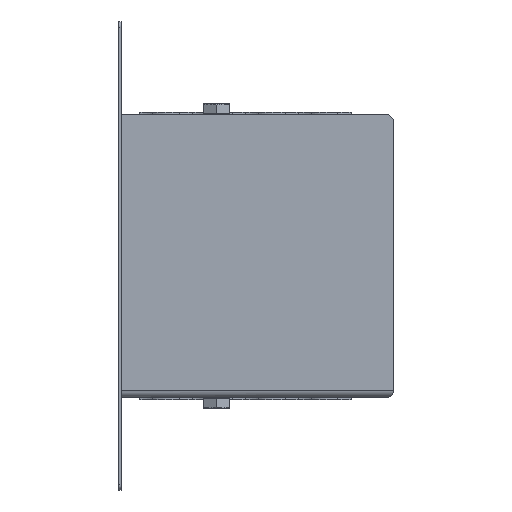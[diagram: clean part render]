
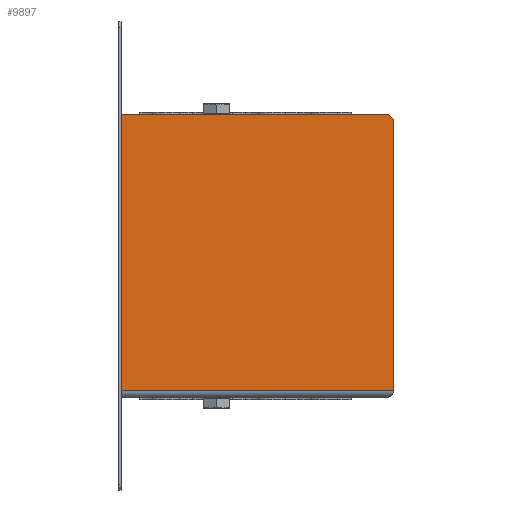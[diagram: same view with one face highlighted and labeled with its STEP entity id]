
A CAD part, left-side view. The second image highlights one B-rep face of the part: STEP entity #9897.
In plain terms, the highlighted planar face has unit normal (-1, 0, 0).
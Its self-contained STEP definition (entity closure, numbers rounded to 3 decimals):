
#187 = CARTESIAN_POINT ( 'NONE',  ( -219.6, 0.8, 50.7 ) ) ;
#545 = VECTOR ( 'NONE', #9205, 1000. ) ;
#758 = CIRCLE ( 'NONE', #8159, 2.8 ) ;
#793 = CARTESIAN_POINT ( 'NONE',  ( -219.6, 0.8, 53.5 ) ) ;
#1156 = ORIENTED_EDGE ( 'NONE', *, *, #5533, .F. ) ;
#1188 = DIRECTION ( 'NONE',  ( 0., 0., -1. ) ) ;
#1517 = DIRECTION ( 'NONE',  ( 0., -1., 0. ) ) ;
#1686 = VECTOR ( 'NONE', #6792, 1000. ) ;
#1745 = ORIENTED_EDGE ( 'NONE', *, *, #12156, .F. ) ;
#2503 = PLANE ( 'NONE',  #4854 ) ;
#2712 = CARTESIAN_POINT ( 'NONE',  ( -219.6, 101., -50.7 ) ) ;
#2959 = CARTESIAN_POINT ( 'NONE',  ( -219.6, 101., -53.5 ) ) ;
#3431 = EDGE_CURVE ( 'NONE', #11229, #12215, #3500, .T. ) ;
#3500 = LINE ( 'NONE', #5264, #545 ) ;
#3717 = VERTEX_POINT ( 'NONE', #793 ) ;
#3961 = DIRECTION ( 'NONE',  ( 0., 0., -1. ) ) ;
#4538 = DIRECTION ( 'NONE',  ( 1., 0., 0. ) ) ;
#4656 = VERTEX_POINT ( 'NONE', #2712 ) ;
#4786 = LINE ( 'NONE', #8376, #9078 ) ;
#4854 = AXIS2_PLACEMENT_3D ( 'NONE', #5446, #4538, #11385 ) ;
#5264 = CARTESIAN_POINT ( 'NONE',  ( -219.6, -2., 53.5 ) ) ;
#5446 = CARTESIAN_POINT ( 'NONE',  ( -219.6, 0., 0. ) ) ;
#5533 = EDGE_CURVE ( 'NONE', #8864, #3717, #4786, .T. ) ;
#6589 = VECTOR ( 'NONE', #3961, 1000. ) ;
#6792 = DIRECTION ( 'NONE',  ( 0., 1., 0. ) ) ;
#6896 = LINE ( 'NONE', #10745, #1686 ) ;
#6905 = LINE ( 'NONE', #2959, #6589 ) ;
#7043 = CARTESIAN_POINT ( 'NONE',  ( -219.6, -2., -50.7 ) ) ;
#7060 = DIRECTION ( 'NONE',  ( 1., 0., 0. ) ) ;
#8159 = AXIS2_PLACEMENT_3D ( 'NONE', #187, #7060, #1188 ) ;
#8187 = CARTESIAN_POINT ( 'NONE',  ( -219.6, -2., 50.7 ) ) ;
#8376 = CARTESIAN_POINT ( 'NONE',  ( -219.6, 0., 53.5 ) ) ;
#8864 = VERTEX_POINT ( 'NONE', #9103 ) ;
#9078 = VECTOR ( 'NONE', #1517, 1000. ) ;
#9103 = CARTESIAN_POINT ( 'NONE',  ( -219.6, 101., 53.5 ) ) ;
#9205 = DIRECTION ( 'NONE',  ( 0., 0., -1. ) ) ;
#9897 = ADVANCED_FACE ( 'NONE', ( #10797 ), #2503, .F. ) ;
#10745 = CARTESIAN_POINT ( 'NONE',  ( -219.6, 71., -50.7 ) ) ;
#10797 = FACE_OUTER_BOUND ( 'NONE', #10817, .T. ) ;
#10817 = EDGE_LOOP ( 'NONE', ( #11022, #1156, #12502, #1745, #10974 ) ) ;
#10974 = ORIENTED_EDGE ( 'NONE', *, *, #3431, .F. ) ;
#11022 = ORIENTED_EDGE ( 'NONE', *, *, #11767, .F. ) ;
#11229 = VERTEX_POINT ( 'NONE', #8187 ) ;
#11385 = DIRECTION ( 'NONE',  ( 0., 0., -1. ) ) ;
#11655 = EDGE_CURVE ( 'NONE', #8864, #4656, #6905, .T. ) ;
#11767 = EDGE_CURVE ( 'NONE', #3717, #11229, #758, .T. ) ;
#12156 = EDGE_CURVE ( 'NONE', #12215, #4656, #6896, .T. ) ;
#12215 = VERTEX_POINT ( 'NONE', #7043 ) ;
#12502 = ORIENTED_EDGE ( 'NONE', *, *, #11655, .T. ) ;
